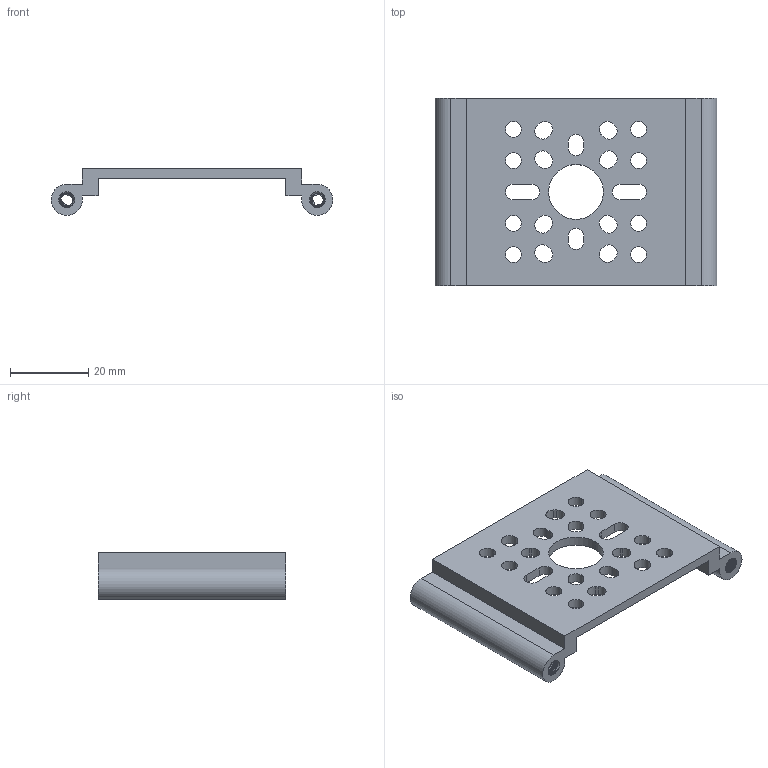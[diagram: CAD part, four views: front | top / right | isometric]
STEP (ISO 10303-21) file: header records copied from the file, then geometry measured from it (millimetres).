
FILE_DESCRIPTION (( 'STEP AP203' ), '1' );
FILE_NAME ('1122-0001-0048.STEP', '2021-04-27T15:51:46', ( '' ), ( '' ), 'SwSTEP 2.0', 'SolidWorks 2016', '' );
FILE_SCHEMA (( 'CONFIG_CONTROL_DESIGN' ));
Length unit declared in the file: millimetre
Products named in the file (1): 1122-0001-0048
Bounding box: 72 x 48 x 12 mm (x, y, z)
Volume: 11479.1 mm3; surface area: 10290.2 mm2
Topology: 1 solids, 1 shells, 458 faces, 1356 edges, 900 vertices
Faces by surface type: cylinder 390, plane 44, cone 16, bspline 8
Entity records: 30383 total; most frequent: CARTESIAN_POINT 19687, ORIENTED_EDGE 2712, DIRECTION 1738, EDGE_CURVE 1356, VERTEX_POINT 900, AXIS2_PLACEMENT_3D 615, VECTOR 508, LINE 508
